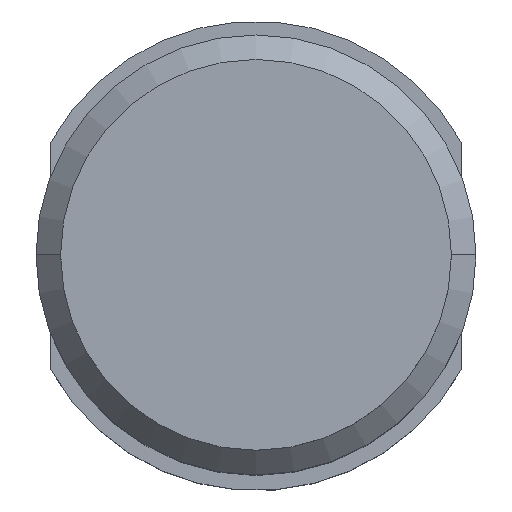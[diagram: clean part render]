
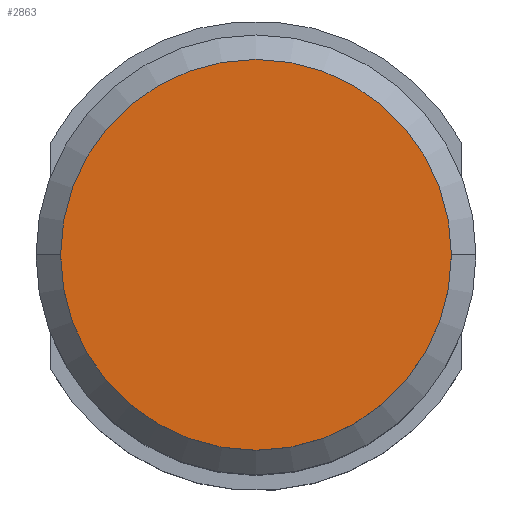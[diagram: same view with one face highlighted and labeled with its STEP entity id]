
A CAD part, top view. The second image highlights one B-rep face of the part: STEP entity #2863.
In plain terms, the highlighted planar face has unit normal (0, 0, 1).
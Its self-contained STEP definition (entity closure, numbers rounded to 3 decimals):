
#299 = EDGE_LOOP ( 'NONE', ( #877, #1760 ) ) ;
#336 = CIRCLE ( 'NONE', #2402, 2.665 ) ;
#557 = CARTESIAN_POINT ( 'NONE',  ( 0., 0., 0. ) ) ;
#630 = AXIS2_PLACEMENT_3D ( 'NONE', #557, #2364, #2341 ) ;
#679 = VERTEX_POINT ( 'NONE', #2809 ) ;
#692 = VERTEX_POINT ( 'NONE', #2076 ) ;
#772 = FACE_OUTER_BOUND ( 'NONE', #299, .T. ) ;
#871 = AXIS2_PLACEMENT_3D ( 'NONE', #2803, #3050, #1587 ) ;
#877 = ORIENTED_EDGE ( 'NONE', *, *, #1166, .T. ) ;
#915 = CIRCLE ( 'NONE', #630, 2.665 ) ;
#1112 = PLANE ( 'NONE',  #871 ) ;
#1166 = EDGE_CURVE ( 'NONE', #692, #679, #915, .T. ) ;
#1282 = CARTESIAN_POINT ( 'NONE',  ( 0., 0., 0. ) ) ;
#1516 = DIRECTION ( 'NONE',  ( 1., 0., 0. ) ) ;
#1587 = DIRECTION ( 'NONE',  ( -1., 0., 0. ) ) ;
#1760 = ORIENTED_EDGE ( 'NONE', *, *, #2715, .T. ) ;
#2076 = CARTESIAN_POINT ( 'NONE',  ( 2.665, 0., 0. ) ) ;
#2341 = DIRECTION ( 'NONE',  ( 1., 0., 0. ) ) ;
#2364 = DIRECTION ( 'NONE',  ( 0., 0., 1. ) ) ;
#2402 = AXIS2_PLACEMENT_3D ( 'NONE', #1282, #2985, #1516 ) ;
#2715 = EDGE_CURVE ( 'NONE', #679, #692, #336, .T. ) ;
#2803 = CARTESIAN_POINT ( 'NONE',  ( 0., 0., 0. ) ) ;
#2809 = CARTESIAN_POINT ( 'NONE',  ( -2.665, 0., 0. ) ) ;
#2863 = ADVANCED_FACE ( 'NONE', ( #772 ), #1112, .F. ) ;
#2985 = DIRECTION ( 'NONE',  ( 0., 0., 1. ) ) ;
#3050 = DIRECTION ( 'NONE',  ( 0., 0., -1. ) ) ;
